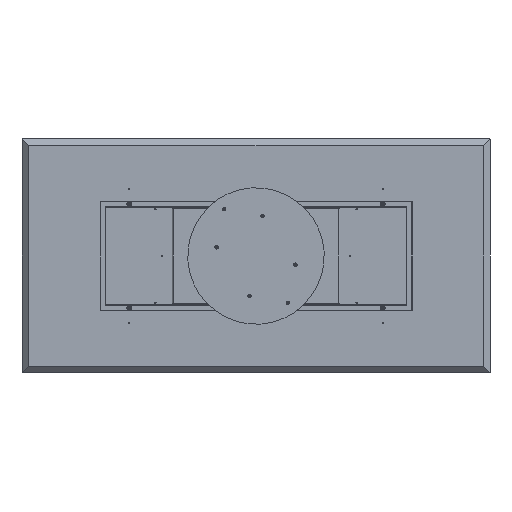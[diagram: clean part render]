
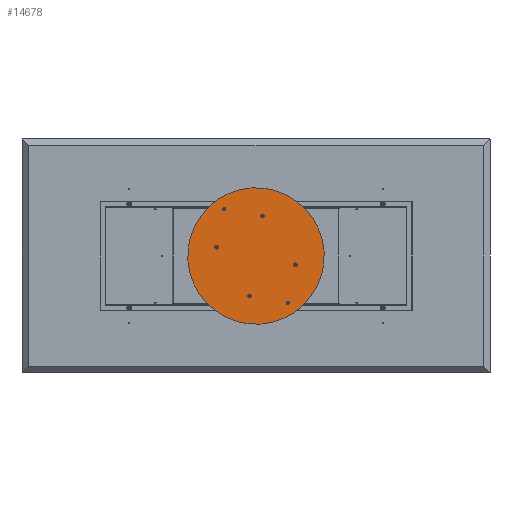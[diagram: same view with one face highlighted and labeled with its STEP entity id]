
A CAD part, front view. The second image highlights one B-rep face of the part: STEP entity #14678.
In plain terms, the highlighted planar face has unit normal (0, -1, 0).
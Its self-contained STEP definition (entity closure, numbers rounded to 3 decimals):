
#52 = CIRCLE ( 'NONE', #6079, 8.65 ) ;
#204 = EDGE_LOOP ( 'NONE', ( #9135, #10996 ) ) ;
#500 = DIRECTION ( 'NONE',  ( 0., -1., 0. ) ) ;
#679 = CIRCLE ( 'NONE', #10821, 8.65 ) ;
#705 = DIRECTION ( 'NONE',  ( 0., -1., 0. ) ) ;
#765 = EDGE_CURVE ( 'NONE', #12169, #1163, #2535, .T. ) ;
#774 = AXIS2_PLACEMENT_3D ( 'NONE', #14774, #12654, #12760 ) ;
#1035 = EDGE_LOOP ( 'NONE', ( #16589, #14394 ) ) ;
#1053 = DIRECTION ( 'NONE',  ( 0., -1., 0. ) ) ;
#1159 = DIRECTION ( 'NONE',  ( 0., -1., 0. ) ) ;
#1163 = VERTEX_POINT ( 'NONE', #8880 ) ;
#1198 = CARTESIAN_POINT ( 'NONE',  ( 290., 0., -8.65 ) ) ;
#1270 = CARTESIAN_POINT ( 'NONE',  ( 0., 0., 0. ) ) ;
#1451 = CIRCLE ( 'NONE', #13085, 8.65 ) ;
#1725 = EDGE_CURVE ( 'NONE', #15970, #5861, #679, .T. ) ;
#2281 = EDGE_CURVE ( 'NONE', #5861, #15970, #1451, .T. ) ;
#2370 = CARTESIAN_POINT ( 'NONE',  ( -150., 0., -151.15 ) ) ;
#2535 = CIRCLE ( 'NONE', #5901, 8.65 ) ;
#2590 = CARTESIAN_POINT ( 'NONE',  ( -150., 0., -142.5 ) ) ;
#2785 = CARTESIAN_POINT ( 'NONE',  ( -150., 0., -133.85 ) ) ;
#2810 = FACE_BOUND ( 'NONE', #11947, .T. ) ;
#2858 = ORIENTED_EDGE ( 'NONE', *, *, #13053, .F. ) ;
#2927 = DIRECTION ( 'NONE',  ( 0., 0., -1. ) ) ;
#2936 = VERTEX_POINT ( 'NONE', #21932 ) ;
#3145 = FACE_BOUND ( 'NONE', #3446, .T. ) ;
#3446 = EDGE_LOOP ( 'NONE', ( #14750, #6380 ) ) ;
#3854 = VERTEX_POINT ( 'NONE', #18424 ) ;
#4089 = VERTEX_POINT ( 'NONE', #2785 ) ;
#4099 = DIRECTION ( 'NONE',  ( 0., 0., -1. ) ) ;
#4218 = CARTESIAN_POINT ( 'NONE',  ( 290., 0., 0. ) ) ;
#4243 = AXIS2_PLACEMENT_3D ( 'NONE', #13899, #23092, #19329 ) ;
#4565 = CARTESIAN_POINT ( 'NONE',  ( -150., 0., -142.5 ) ) ;
#4581 = AXIS2_PLACEMENT_3D ( 'NONE', #5551, #500, #7688 ) ;
#5021 = EDGE_LOOP ( 'NONE', ( #5095, #11845 ) ) ;
#5095 = ORIENTED_EDGE ( 'NONE', *, *, #18983, .F. ) ;
#5546 = AXIS2_PLACEMENT_3D ( 'NONE', #1270, #9986, #13955 ) ;
#5551 = CARTESIAN_POINT ( 'NONE',  ( 150., 0., 142.5 ) ) ;
#5861 = VERTEX_POINT ( 'NONE', #9372 ) ;
#5886 = VERTEX_POINT ( 'NONE', #17224 ) ;
#5901 = AXIS2_PLACEMENT_3D ( 'NONE', #13406, #1053, #2927 ) ;
#5951 = CARTESIAN_POINT ( 'NONE',  ( -150., 0., 151.15 ) ) ;
#6042 = CIRCLE ( 'NONE', #774, 350. ) ;
#6079 = AXIS2_PLACEMENT_3D ( 'NONE', #2590, #705, #20479 ) ;
#6380 = ORIENTED_EDGE ( 'NONE', *, *, #7525, .F. ) ;
#6559 = FACE_BOUND ( 'NONE', #1035, .T. ) ;
#6986 = DIRECTION ( 'NONE',  ( 0., -1., 0. ) ) ;
#7132 = CARTESIAN_POINT ( 'NONE',  ( -290., 0., -8.65 ) ) ;
#7241 = VERTEX_POINT ( 'NONE', #1198 ) ;
#7525 = EDGE_CURVE ( 'NONE', #4089, #21360, #52, .T. ) ;
#7688 = DIRECTION ( 'NONE',  ( 0., 0., -1. ) ) ;
#7961 = DIRECTION ( 'NONE',  ( 0., 1., 0. ) ) ;
#8204 = DIRECTION ( 'NONE',  ( 0., 0., -1. ) ) ;
#8394 = EDGE_CURVE ( 'NONE', #15684, #9216, #14732, .T. ) ;
#8588 = EDGE_LOOP ( 'NONE', ( #10203, #2858 ) ) ;
#8601 = CARTESIAN_POINT ( 'NONE',  ( 290., 0., 0. ) ) ;
#8604 = EDGE_CURVE ( 'NONE', #7241, #10748, #19267, .T. ) ;
#8878 = AXIS2_PLACEMENT_3D ( 'NONE', #10993, #16170, #20291 ) ;
#8880 = CARTESIAN_POINT ( 'NONE',  ( -150., 0., 133.85 ) ) ;
#9036 = CARTESIAN_POINT ( 'NONE',  ( 150., 0., -133.85 ) ) ;
#9135 = ORIENTED_EDGE ( 'NONE', *, *, #1725, .F. ) ;
#9216 = VERTEX_POINT ( 'NONE', #21627 ) ;
#9229 = AXIS2_PLACEMENT_3D ( 'NONE', #13595, #7961, #15482 ) ;
#9372 = CARTESIAN_POINT ( 'NONE',  ( -290., 0., 8.65 ) ) ;
#9869 = AXIS2_PLACEMENT_3D ( 'NONE', #23115, #6986, #22770 ) ;
#9986 = DIRECTION ( 'NONE',  ( 0., 1., 0. ) ) ;
#10103 = DIRECTION ( 'NONE',  ( 0., 0., -1. ) ) ;
#10203 = ORIENTED_EDGE ( 'NONE', *, *, #8604, .F. ) ;
#10320 = DIRECTION ( 'NONE',  ( 0., -1., 0. ) ) ;
#10475 = CARTESIAN_POINT ( 'NONE',  ( -290., 0., 0. ) ) ;
#10583 = VERTEX_POINT ( 'NONE', #9036 ) ;
#10748 = VERTEX_POINT ( 'NONE', #13614 ) ;
#10821 = AXIS2_PLACEMENT_3D ( 'NONE', #10475, #23076, #14121 ) ;
#10993 = CARTESIAN_POINT ( 'NONE',  ( -150., 0., 142.5 ) ) ;
#10996 = ORIENTED_EDGE ( 'NONE', *, *, #2281, .F. ) ;
#10999 = CIRCLE ( 'NONE', #9869, 8.65 ) ;
#11134 = ORIENTED_EDGE ( 'NONE', *, *, #21046, .F. ) ;
#11845 = ORIENTED_EDGE ( 'NONE', *, *, #12258, .F. ) ;
#11947 = EDGE_LOOP ( 'NONE', ( #18692, #13429 ) ) ;
#12169 = VERTEX_POINT ( 'NONE', #5951 ) ;
#12245 = DIRECTION ( 'NONE',  ( 0., 0., -1. ) ) ;
#12258 = EDGE_CURVE ( 'NONE', #2936, #5886, #20780, .T. ) ;
#12575 = EDGE_CURVE ( 'NONE', #1163, #12169, #19773, .T. ) ;
#12654 = DIRECTION ( 'NONE',  ( 0., 1., 0. ) ) ;
#12760 = DIRECTION ( 'NONE',  ( 0., 0., 1. ) ) ;
#13027 = CIRCLE ( 'NONE', #19791, 8.65 ) ;
#13043 = DIRECTION ( 'NONE',  ( 0., -1., 0. ) ) ;
#13053 = EDGE_CURVE ( 'NONE', #10748, #7241, #14152, .T. ) ;
#13085 = AXIS2_PLACEMENT_3D ( 'NONE', #19145, #10320, #8204 ) ;
#13137 = EDGE_CURVE ( 'NONE', #21360, #4089, #13027, .T. ) ;
#13225 = EDGE_CURVE ( 'NONE', #3854, #10583, #22436, .T. ) ;
#13406 = CARTESIAN_POINT ( 'NONE',  ( -150., 0., 142.5 ) ) ;
#13429 = ORIENTED_EDGE ( 'NONE', *, *, #20573, .F. ) ;
#13595 = CARTESIAN_POINT ( 'NONE',  ( 0., 0., 0. ) ) ;
#13614 = CARTESIAN_POINT ( 'NONE',  ( 290., 0., 8.65 ) ) ;
#13899 = CARTESIAN_POINT ( 'NONE',  ( 150., 0., 142.5 ) ) ;
#13955 = DIRECTION ( 'NONE',  ( 0., 0., 1. ) ) ;
#14086 = ORIENTED_EDGE ( 'NONE', *, *, #8394, .F. ) ;
#14121 = DIRECTION ( 'NONE',  ( 0., 0., -1. ) ) ;
#14152 = CIRCLE ( 'NONE', #16419, 8.65 ) ;
#14394 = ORIENTED_EDGE ( 'NONE', *, *, #765, .F. ) ;
#14678 = ADVANCED_FACE ( 'NONE', ( #22455, #3145, #2810, #15622, #17384, #6559, #22795 ), #15504, .F. ) ;
#14732 = CIRCLE ( 'NONE', #4581, 8.65 ) ;
#14750 = ORIENTED_EDGE ( 'NONE', *, *, #13137, .F. ) ;
#14774 = CARTESIAN_POINT ( 'NONE',  ( 0., 0., 0. ) ) ;
#15295 = AXIS2_PLACEMENT_3D ( 'NONE', #17279, #1159, #21145 ) ;
#15482 = DIRECTION ( 'NONE',  ( 0., 0., 1. ) ) ;
#15504 = PLANE ( 'NONE',  #5546 ) ;
#15622 = FACE_BOUND ( 'NONE', #8588, .T. ) ;
#15671 = DIRECTION ( 'NONE',  ( 0., -1., 0. ) ) ;
#15684 = VERTEX_POINT ( 'NONE', #15998 ) ;
#15970 = VERTEX_POINT ( 'NONE', #7132 ) ;
#15998 = CARTESIAN_POINT ( 'NONE',  ( 150., 0., 151.15 ) ) ;
#16170 = DIRECTION ( 'NONE',  ( 0., -1., 0. ) ) ;
#16419 = AXIS2_PLACEMENT_3D ( 'NONE', #4218, #13043, #4099 ) ;
#16589 = ORIENTED_EDGE ( 'NONE', *, *, #12575, .F. ) ;
#16968 = EDGE_LOOP ( 'NONE', ( #11134, #14086 ) ) ;
#17224 = CARTESIAN_POINT ( 'NONE',  ( 0., 0., -350. ) ) ;
#17279 = CARTESIAN_POINT ( 'NONE',  ( 150., 0., -142.5 ) ) ;
#17384 = FACE_BOUND ( 'NONE', #16968, .T. ) ;
#18424 = CARTESIAN_POINT ( 'NONE',  ( 150., 0., -151.15 ) ) ;
#18692 = ORIENTED_EDGE ( 'NONE', *, *, #13225, .F. ) ;
#18983 = EDGE_CURVE ( 'NONE', #5886, #2936, #6042, .T. ) ;
#19145 = CARTESIAN_POINT ( 'NONE',  ( -290., 0., 0. ) ) ;
#19158 = DIRECTION ( 'NONE',  ( 0., -1., 0. ) ) ;
#19267 = CIRCLE ( 'NONE', #21506, 8.65 ) ;
#19329 = DIRECTION ( 'NONE',  ( 0., 0., -1. ) ) ;
#19773 = CIRCLE ( 'NONE', #8878, 8.65 ) ;
#19791 = AXIS2_PLACEMENT_3D ( 'NONE', #4565, #19158, #10103 ) ;
#20291 = DIRECTION ( 'NONE',  ( 0., 0., -1. ) ) ;
#20416 = CIRCLE ( 'NONE', #4243, 8.65 ) ;
#20479 = DIRECTION ( 'NONE',  ( 0., 0., -1. ) ) ;
#20573 = EDGE_CURVE ( 'NONE', #10583, #3854, #10999, .T. ) ;
#20780 = CIRCLE ( 'NONE', #9229, 350. ) ;
#21046 = EDGE_CURVE ( 'NONE', #9216, #15684, #20416, .T. ) ;
#21145 = DIRECTION ( 'NONE',  ( 0., 0., -1. ) ) ;
#21360 = VERTEX_POINT ( 'NONE', #2370 ) ;
#21506 = AXIS2_PLACEMENT_3D ( 'NONE', #8601, #15671, #12245 ) ;
#21627 = CARTESIAN_POINT ( 'NONE',  ( 150., 0., 133.85 ) ) ;
#21932 = CARTESIAN_POINT ( 'NONE',  ( 0., 0., 350. ) ) ;
#22436 = CIRCLE ( 'NONE', #15295, 8.65 ) ;
#22455 = FACE_BOUND ( 'NONE', #204, .T. ) ;
#22770 = DIRECTION ( 'NONE',  ( 0., 0., -1. ) ) ;
#22795 = FACE_OUTER_BOUND ( 'NONE', #5021, .T. ) ;
#23076 = DIRECTION ( 'NONE',  ( 0., -1., 0. ) ) ;
#23092 = DIRECTION ( 'NONE',  ( 0., -1., 0. ) ) ;
#23115 = CARTESIAN_POINT ( 'NONE',  ( 150., 0., -142.5 ) ) ;
